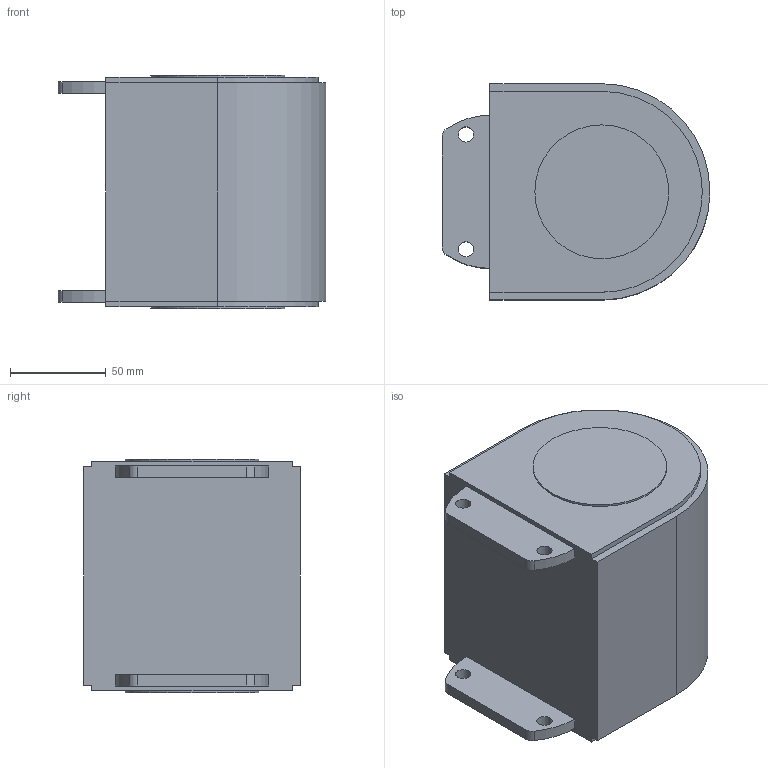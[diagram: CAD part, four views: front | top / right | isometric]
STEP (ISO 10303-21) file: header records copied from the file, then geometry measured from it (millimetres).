
FILE_DESCRIPTION (( 'STEP AP214' ), '1' );
FILE_NAME ('VC.120 Aandrijf & omloopsectie.Z8 omloop.STEP', '2017-02-08T07:42:30', ( '' ), ( '' ), 'SwSTEP 2.0', 'SolidWorks 2016', '' );
FILE_SCHEMA (( 'AUTOMOTIVE_DESIGN' ));
Length unit declared in the file: millimetre
Products named in the file (1): VC.120 Aandrijf & omloopsectie.Z8 omloop
Bounding box: 140 x 113 x 122 mm (x, y, z)
Volume: 1417211.4 mm3; surface area: 80537.9 mm2
Topology: 1 solids, 1 shells, 42 faces, 108 edges, 72 vertices
Faces by surface type: cylinder 23, plane 19
Entity records: 1348 total; most frequent: DIRECTION 240, CARTESIAN_POINT 223, ORIENTED_EDGE 216, EDGE_CURVE 108, AXIS2_PLACEMENT_3D 89, VERTEX_POINT 72, VECTOR 62, LINE 62
